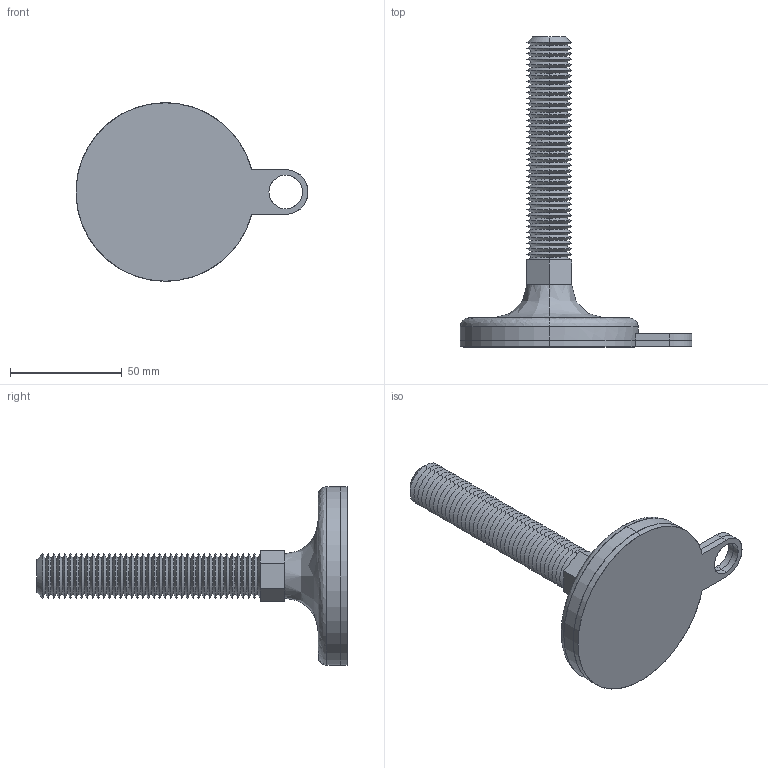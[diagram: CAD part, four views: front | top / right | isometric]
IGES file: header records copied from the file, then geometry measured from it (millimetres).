
Start section: SolidWorks IGES file using analytic representation for surfaces
Global section: file name: C:\Users\liam_\OneDrive\Documents\WORK\Work for WixRoyd\Job Files\J-00026 - Matt Davis CAD - 20191124\04. CAD Drawings\Wixroyd20191124\34704_v2\34704_v2_20191128_IGES\34704.W2001.igs; native system: SolidWorks 2017; preprocessor: SolidWorks 2017; author: liam_; date: 191128.202656; units: millimetre
Bounding box: 104 x 139 x 80 mm (x, y, z)
Surface area: 36990.6 mm2 (no closed solid volume)
Topology: 0 solids, 0 shells, 201 faces, 1436 edges, 1436 vertices
Faces by surface type: revolution 169, bspline 32
